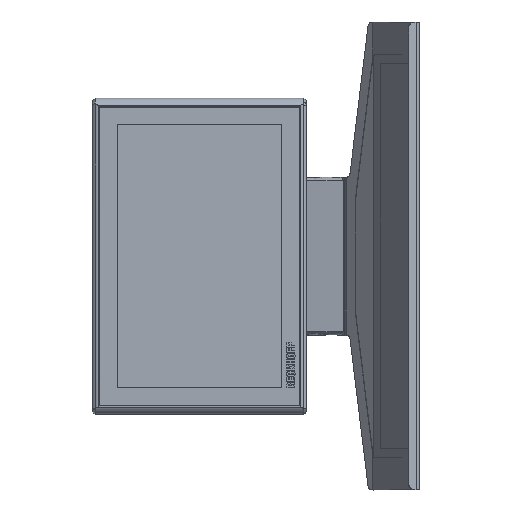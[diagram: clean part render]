
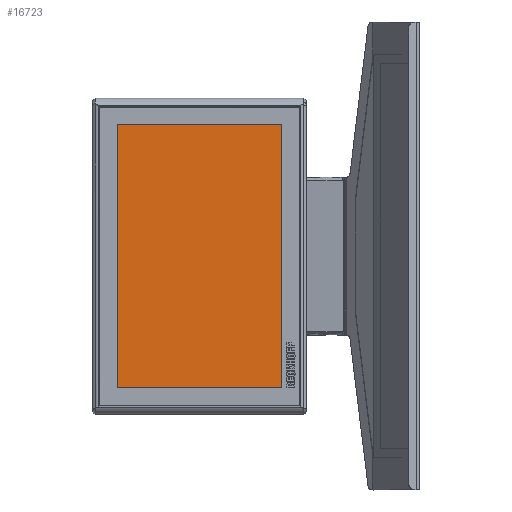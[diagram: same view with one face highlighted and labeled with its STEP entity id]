
A CAD part, top view. The second image highlights one B-rep face of the part: STEP entity #16723.
In plain terms, the highlighted planar face has unit normal (0, 0, 1).
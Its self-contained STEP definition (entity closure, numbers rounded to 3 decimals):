
#1851=FACE_OUTER_BOUND('',#2827,.T.);
#2827=EDGE_LOOP('',(#10632,#10633,#10634,#10635));
#3909=LINE('',#25106,#5189);
#3910=LINE('',#25108,#5190);
#3911=LINE('',#25110,#5191);
#3912=LINE('',#25111,#5192);
#5189=VECTOR('',#19631,10.);
#5190=VECTOR('',#19632,10.);
#5191=VECTOR('',#19633,10.);
#5192=VECTOR('',#19634,10.);
#6493=VERTEX_POINT('',#25104);
#6494=VERTEX_POINT('',#25105);
#6495=VERTEX_POINT('',#25107);
#6496=VERTEX_POINT('',#25109);
#8115=EDGE_CURVE('',#6493,#6494,#3909,.T.);
#8116=EDGE_CURVE('',#6495,#6493,#3910,.T.);
#8117=EDGE_CURVE('',#6496,#6495,#3911,.T.);
#8118=EDGE_CURVE('',#6494,#6496,#3912,.T.);
#10632=ORIENTED_EDGE('',*,*,#8115,.F.);
#10633=ORIENTED_EDGE('',*,*,#8116,.F.);
#10634=ORIENTED_EDGE('',*,*,#8117,.F.);
#10635=ORIENTED_EDGE('',*,*,#8118,.F.);
#15319=PLANE('',#17754);
#16723=ADVANCED_FACE('',(#1851),#15319,.T.);
#17754=AXIS2_PLACEMENT_3D('',#25103,#19629,#19630);
#19629=DIRECTION('center_axis',(0.,0.,
1.));
#19630=DIRECTION('ref_axis',(0.,-1.,0.));
#19631=DIRECTION('',(0.,1.,0.));
#19632=DIRECTION('',(-1.,0.,0.));
#19633=DIRECTION('',(0.,-1.,0.));
#19634=DIRECTION('',(1.,0.,0.));
#25103=CARTESIAN_POINT('Origin',(0.,0.,
11.3));
#25104=CARTESIAN_POINT('',(-82.4,-131.4,11.3));
#25105=CARTESIAN_POINT('',(-82.4,131.4,11.3));
#25106=CARTESIAN_POINT('',(-82.4,65.7,11.3));
#25107=CARTESIAN_POINT('',(82.4,-131.4,11.3));
#25108=CARTESIAN_POINT('',(-41.2,-131.4,11.3));
#25109=CARTESIAN_POINT('',(82.4,131.4,11.3));
#25110=CARTESIAN_POINT('',(82.4,-65.7,11.3));
#25111=CARTESIAN_POINT('',(41.2,131.4,11.3));
